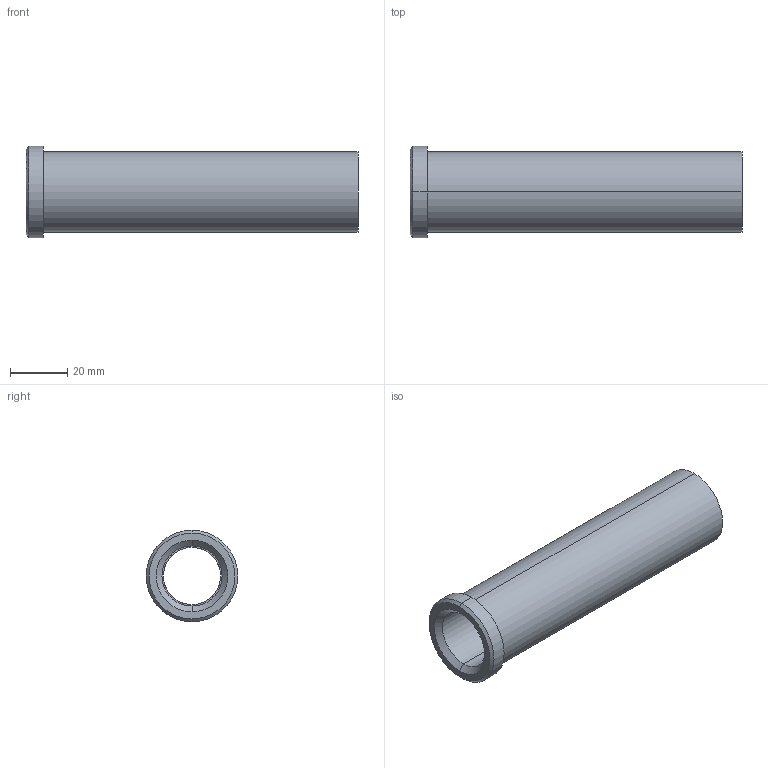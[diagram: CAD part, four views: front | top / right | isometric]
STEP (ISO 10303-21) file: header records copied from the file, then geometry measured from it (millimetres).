
FILE_DESCRIPTION(('CATIA V5 STEP Exchange'),'2;1');
FILE_NAME('C:\Users\Utente\Desktop\IO LAVORO\3D X SITO CF\X SITO\PLASTICA\353\353-20X116.stp','2021-05-08T08:51:31+00:00',('none'),('none'),'CATIA Version 5 Release 20 GA (IN-10)','CATIA V5 STEP AP203','none');
FILE_SCHEMA(('CONFIG_CONTROL_DESIGN'));
Length unit declared in the file: millimetre
Products named in the file (1): 353-20X116
Bounding box: 116 x 32 x 32 mm (x, y, z)
Volume: 33447.5 mm3; surface area: 18615 mm2
Topology: 1 solids, 1 shells, 18 faces, 58 edges, 44 vertices
Faces by surface type: cylinder 8, plane 4, cone 4, torus 2
Entity records: 840 total; most frequent: CARTESIAN_POINT 289, ORIENTED_EDGE 116, DIRECTION 82, EDGE_CURVE 58, AXIS2_PLACEMENT_3D 53, VERTEX_POINT 44, CIRCLE 34, EDGE_LOOP 22
